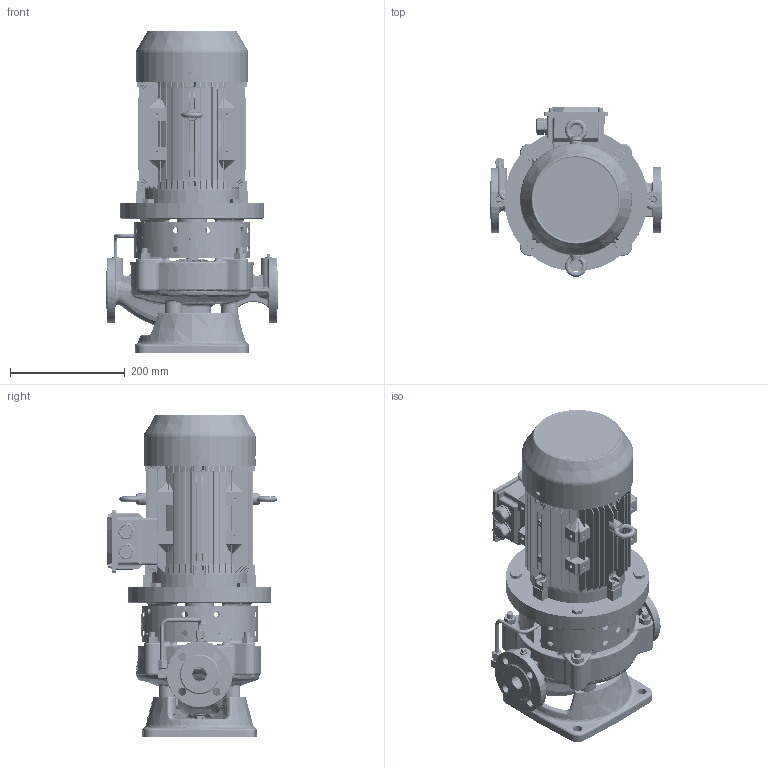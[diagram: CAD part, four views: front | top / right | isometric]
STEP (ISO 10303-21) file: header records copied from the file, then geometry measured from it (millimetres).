
FILE_DESCRIPTION((''),'2;1');
FILE_NAME('421841_ASM','2026-08-12T08:55:24',('brhe'),(''),'CREO PARAMETRIC BY PTC INC, 2023424','CREO PARAMETRIC BY PTC INC, 2023424','');
FILE_SCHEMA(('CONFIG_CONTROL_DESIGN'));
Products named in the file (32): 567523; 567560; 567543; 3141-000BA116; 3144-000BA116; 693229-PIPE; 704390; 760085; 700227; 704063; 693229_ASM; 115747; 115748; 694415_ASM; 694295_ASM; 560940; 115363_AF4; 708791; 115635; 708002; 700306; 720488; 703239; 694300_ASM; 712093_AF0; 721416; 694303_ASM; 32138015; 700313; 2037777_ASM; 852200; 421841_ASM
Assembly tree (52 placements, depth 5):
  421841_ASM
    693229_ASM
      567523
      567560
      567543
      3141-000BA116
      3144-000BA116
      693229-PIPE
      704390  x3
      760085
      700227  x4
      704063  x4
    694300_ASM
      694295_ASM
        694415_ASM
          115747
          115748
      560940
      115363_AF4
      708791  x4
      115635
      708002  x3
      700306  x3
      720488  x4
      703239  x2
    694303_ASM
      712093_AF0
      721416
    2037777_ASM
      32138015
      700313  x3
    852200
Bounding box: 300 x 296.6 x 563.49 mm (x, y, z)
Volume: 8994114.9 mm3; surface area: 1795789.1 mm2
Topology: 46 solids, 81 shells, 5570 faces, 14563 edges, 9302 vertices
Faces by surface type: plane 2105, cylinder 1211, bspline 799, extrusion 618, cone 501, torus 298, sphere 32, revolution 6
Entity records: 299230 total; most frequent: CARTESIAN_POINT 178572, ORIENTED_EDGE 27376, DIRECTION 21022, EDGE_CURVE 13772, VERTEX_POINT 8853, AXIS2_PLACEMENT_3D 7709, EDGE_LOOP 5719, B_SPLINE_CURVE_WITH_KNOTS 5632
